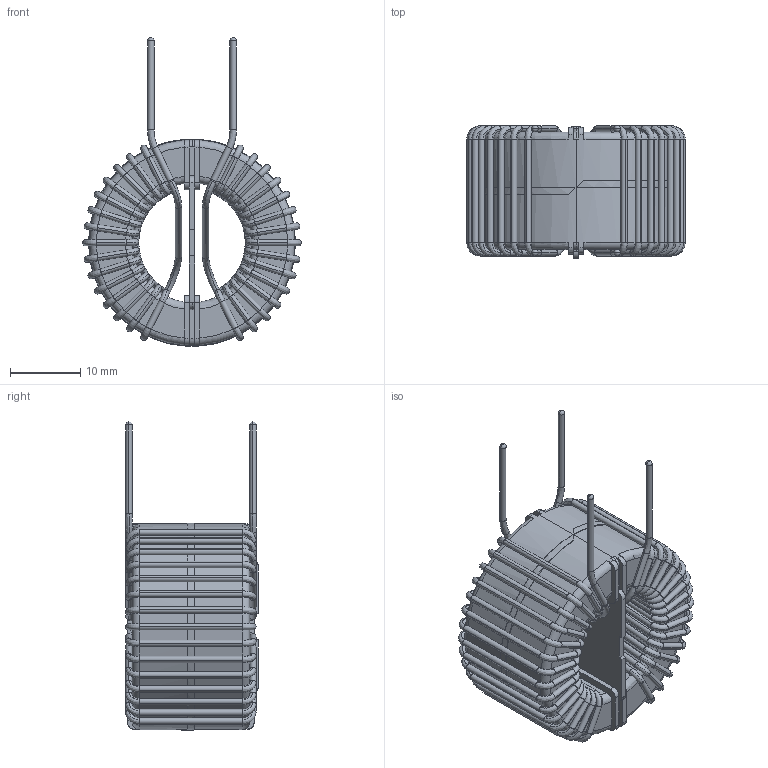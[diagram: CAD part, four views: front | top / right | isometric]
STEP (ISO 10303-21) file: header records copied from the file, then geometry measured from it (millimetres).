
FILE_DESCRIPTION (( 'STEP AP203' ), '1' );
FILE_NAME ('HL-V-152U-5A.STEP', '2020-07-31T13:47:26', ( 'Windows User' ), ( '' ), 'SwSTEP 2.0', 'SolidWorks 2015', '' );
FILE_SCHEMA (( 'CONFIG_CONTROL_DESIGN' ));
Length unit declared in the file: inch
Products named in the file (4): HL-V-152U-5A - FRAME; HL-V-152U-5A - CORE; HL-V-152U-5A - COIL; HL-V-152U-5A
Assembly tree (3 placements, depth 2):
  HL-V-152U-5A
    HL-V-152U-5A - CORE
    HL-V-152U-5A - COIL
    HL-V-152U-5A - FRAME
Bounding box: 31.03 x 18.87 x 43.82 mm (x, y, z)
Volume: 8701.2 mm3; surface area: 8633.4 mm2
Topology: 10 solids, 10 shells, 667 faces, 1845 edges, 1196 vertices
Faces by surface type: cylinder 286, torus 167, bspline 144, plane 70
Entity records: 32044 total; most frequent: CARTESIAN_POINT 14548, DIRECTION 3870, ORIENTED_EDGE 3690, EDGE_CURVE 1845, AXIS2_PLACEMENT_3D 1732, CIRCLE 1203, VERTEX_POINT 1196, FACE_OUTER_BOUND 667
